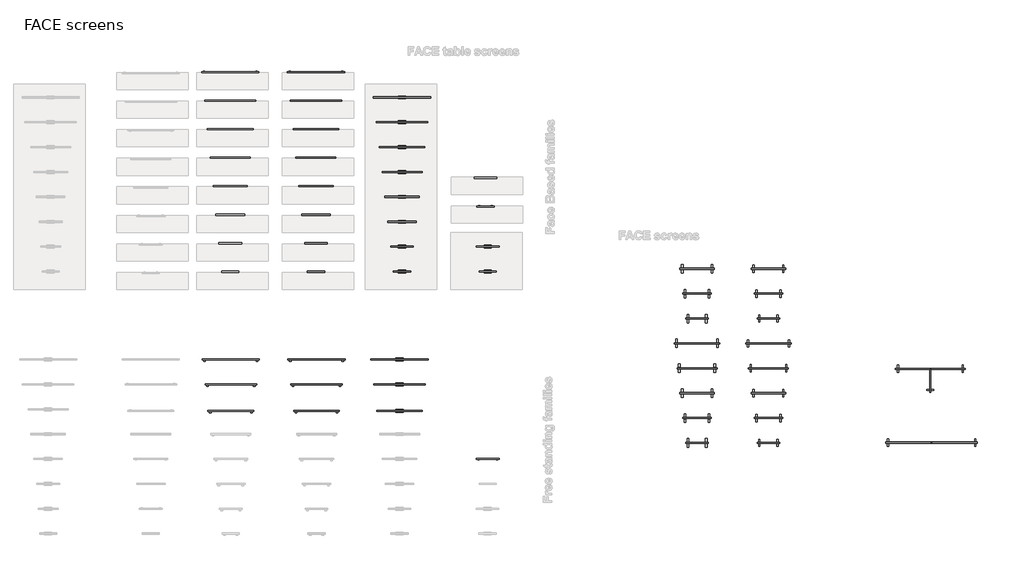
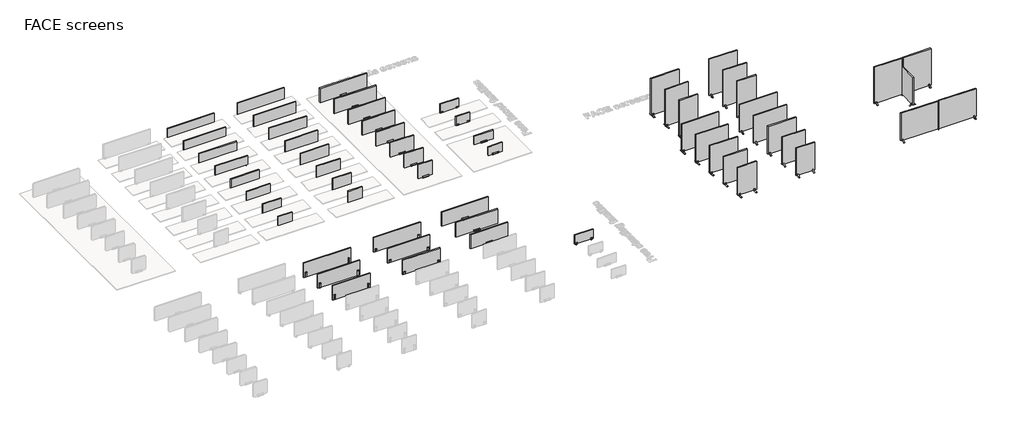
# One storey, part 3 of 5: 59 furniture elements.
"""IFC4 building model written with IfcOpenShell, lengths in millimetres."""

from ifc_helpers import new_model, si_unit, origin, place, context, project, spatial, transform, mapped, element, save
from components import face_screen_713s08_132d1581, face_screen_713s08_463c1df5, face_screen_713s08_e614f201, face_screen_713s10_a4a66952, face_screen_713s10_ce27eabc, face_screen_713s12_4cacd4ec, face_screen_713s12_c93f8a8a, face_screen_713s14_c8a57ed8, face_screen_713s14_17c6f82f, face_screen_713s16_5315decc, face_screen_713s16_555d7e20, face_screen_713s16_f4952262, face_screen_713s16_cd65d1c1, face_screen_717s08_8108ae5a, face_screen_717s08_0329c279, face_screen_717s10_e4c576fd, face_screen_717s10_6311407a, face_screen_717s12_05edb2e0, face_screen_717s12_f170c9c9, face_screen_717s12_934e0f32, face_screen_717s12_8a0433d3, face_table_screen_fb_706s06_1b9d16fb, face_table_screen_fb_706s06_270b821b, face_table_screen_fb_706s08_bac2a356, face_table_screen_fb_706s08_61d8b406, face_table_screen_fb_706s10_108e3ade, face_table_screen_fb_706s10_e50b1dd3, face_table_screen_fb_706s12_b80f97d4, face_table_screen_fb_706s12_b1512c8a, face_table_screen_fb_706s14_fd4735a2, face_table_screen_fb_706s14_3284f1b9, face_table_screen_fb_706s16_7a2e27b4, face_table_screen_fb_706s16_5bb2e9a6, face_table_screen_fb_706s18_1e987e3a, face_table_screen_fb_706s18_e1da7d5a, face_table_screen_fb_706s20_892f0159, face_table_screen_fb_706s20_56650287, face_table_screen_706s16_38ff3cb7, face_table_screen_706s16_7d1a2229, face_table_screen_706s18_22aa0667, face_table_screen_706s18_cf4f79c4, face_table_screen_706s20_c60f38a6, face_table_screen_706s20_2f652c50, face_table_screen_above_the_table_top_fb_704s06y_ef0356d6, face_table_screen_above_the_table_top_fb_704s08y_3d9364f4, face_table_screen_above_the_table_top_704s08y_034038e7, face_free_standing_table_screen_fb_704s06s_1d66ae4d, face_free_standing_table_screen_fb_704s08s_dd9e2d3d, face_free_standing_table_screen_fb_706s06s_526e518a, face_free_standing_table_screen_fb_706s08s_8f1e602d, face_free_standing_table_screen_fb_706s10s_eb0373b6, face_free_standing_table_screen_fb_706s12s_747048ee, face_free_standing_table_screen_fb_706s14s_09d87a36, face_free_standing_table_screen_fb_706s16s_381274a4, face_free_standing_table_screen_fb_706s18s_6387123e, face_free_standing_table_screen_fb_706s20s_1d73bb6a

model = new_model("IFC4")

# Units and contexts
model_context = context("Model", 3, world=origin())
ifc_project = project(units=[si_unit("LENGTHUNIT", "METRE", prefix="MILLI")], contexts=[model_context])

# Site, building, storey
site = spatial("IfcSite", under=ifc_project)
building = spatial("IfcBuilding", under=site)
storey = spatial("IfcBuildingStorey", under=building, Name="FACE screens", Elevation=0.0)

# Furniture
placement = place(None, origin())
face_screen_713s08_shape = face_screen_713s08_132d1581(model_context)
element("IfcFurniture", 1, ObjectType="Face Screen : 713S08", at=placement, inside=storey, context=model_context, shape_type="MappedRepresentation", body=[
    mapped(face_screen_713s08_shape, transform((26613.7291087, 17495.7103603, 0.0), x_axis=(0.0, -1.0000000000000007, 0.0), y_axis=(1.0000000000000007, 0.0, 0.0), z_axis=(0.0, 0.0, 1.0))),
])
face_screen_713s08_2_shape = face_screen_713s08_463c1df5(model_context)
element("IfcFurniture", 2, ObjectType="Face Screen : 713S08", at=placement, inside=storey, context=model_context, shape_type="MappedRepresentation", body=[
    mapped(face_screen_713s08_2_shape, transform((18452.0791385, 15319.7968551, 0.0), x_axis=(1.0000000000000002, 0.0, 0.0), y_axis=(0.0, 1.0000000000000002, 0.0), z_axis=(0.0, 0.0, 1.0))),
])
face_screen_713s08_3_shape = face_screen_713s08_e614f201(model_context)
element("IfcFurniture", 3, ObjectType="Face Screen : 713S08", at=placement, inside=storey, context=model_context, shape_type="MappedRepresentation", body=[
    mapped(face_screen_713s08_3_shape, transform((20952.0791385, 15319.7968551, 0.0), x_axis=(1.0000000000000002, 0.0, 0.0), y_axis=(0.0, 1.0000000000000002, 0.0), z_axis=(0.0, 0.0, 1.0))),
])
face_screen_713s10_shape = face_screen_713s10_a4a66952(model_context)
element("IfcFurniture", 4, ObjectType="Face Screen : 713S10", at=placement, inside=storey, context=model_context, shape_type="MappedRepresentation", body=[
    mapped(face_screen_713s10_shape, transform((18452.0791385, 16191.2254266, 0.0), x_axis=(1.0000000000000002, 0.0, 0.0), y_axis=(0.0, 1.0000000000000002, 0.0), z_axis=(0.0, 0.0, 1.0))),
])
face_screen_713s10_2_shape = face_screen_713s10_ce27eabc(model_context)
element("IfcFurniture", 5, ObjectType="Face Screen : 713S10", at=placement, inside=storey, context=model_context, shape_type="MappedRepresentation", body=[
    mapped(face_screen_713s10_2_shape, transform((20952.0791385, 16191.2254266, 0.0), x_axis=(1.0000000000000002, 0.0, 0.0), y_axis=(0.0, 1.0000000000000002, 0.0), z_axis=(0.0, 0.0, 1.0))),
])
face_screen_713s12_shape = face_screen_713s12_4cacd4ec(model_context)
element("IfcFurniture", 6, ObjectType="Face Screen : 713S12", at=placement, inside=storey, context=model_context, shape_type="MappedRepresentation", body=[
    mapped(face_screen_713s12_shape, transform((18452.0791385, 17062.653998, 0.0), x_axis=(1.0000000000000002, 0.0, 0.0), y_axis=(0.0, 1.0000000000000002, 0.0), z_axis=(0.0, 0.0, 1.0))),
])
face_screen_713s12_2_shape = face_screen_713s12_c93f8a8a(model_context)
element("IfcFurniture", 7, ObjectType="Face Screen : 713S12", at=placement, inside=storey, context=model_context, shape_type="MappedRepresentation", body=[
    mapped(face_screen_713s12_2_shape, transform((20952.0791385, 17062.653998, 0.0), x_axis=(1.0000000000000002, 0.0, 0.0), y_axis=(0.0, 1.0000000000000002, 0.0), z_axis=(0.0, 0.0, 1.0))),
])
face_screen_713s14_shape = face_screen_713s14_c8a57ed8(model_context)
element("IfcFurniture", 8, ObjectType="Face Screen : 713S14", at=placement, inside=storey, context=model_context, shape_type="MappedRepresentation", body=[
    mapped(face_screen_713s14_shape, transform((18452.0791385, 17934.0825694, 0.0), x_axis=(1.0000000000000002, 0.0, 0.0), y_axis=(0.0, 1.0000000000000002, 0.0), z_axis=(0.0, 0.0, 1.0))),
])
face_screen_713s14_2_shape = face_screen_713s14_17c6f82f(model_context)
element("IfcFurniture", 9, ObjectType="Face Screen : 713S14", at=placement, inside=storey, context=model_context, shape_type="MappedRepresentation", body=[
    mapped(face_screen_713s14_2_shape, transform((20952.0791385, 17934.0825694, 0.0), x_axis=(1.0000000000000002, 0.0, 0.0), y_axis=(0.0, 1.0000000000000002, 0.0), z_axis=(0.0, 0.0, 1.0))),
])
face_screen_713s16_shape = face_screen_713s16_5315decc(model_context)
element("IfcFurniture", 10, ObjectType="Face Screen : 713S16", at=placement, inside=storey, context=model_context, shape_type="MappedRepresentation", body=[
    mapped(face_screen_713s16_shape, transform((25853.7291087, 15328.716789, 0.0), x_axis=(1.0000000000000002, 0.0, 0.0), y_axis=(0.0, 1.0000000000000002, 0.0), z_axis=(0.0, 0.0, 1.0))),
])
face_screen_713s16_2_shape = face_screen_713s16_555d7e20(model_context)
element("IfcFurniture", 11, ObjectType="Face Screen : 713S16", at=placement, inside=storey, context=model_context, shape_type="MappedRepresentation", body=[
    mapped(face_screen_713s16_2_shape, transform((27468.7291087, 15328.716789, 0.0), x_axis=(1.0000000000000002, 0.0, 0.0), y_axis=(0.0, 1.0000000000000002, 0.0), z_axis=(0.0, 0.0, 1.0))),
])
face_screen_713s16_3_shape = face_screen_713s16_f4952262(model_context)
element("IfcFurniture", 12, ObjectType="Face Screen : 713S16", at=placement, inside=storey, context=model_context, shape_type="MappedRepresentation", body=[
    mapped(face_screen_713s16_3_shape, transform((18452.0791385, 18805.5111409, 0.0), x_axis=(1.0000000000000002, 0.0, 0.0), y_axis=(0.0, 1.0000000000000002, 0.0), z_axis=(0.0, 0.0, 1.0))),
])
face_screen_713s16_4_shape = face_screen_713s16_cd65d1c1(model_context)
element("IfcFurniture", 13, ObjectType="Face Screen : 713S16", at=placement, inside=storey, context=model_context, shape_type="MappedRepresentation", body=[
    mapped(face_screen_713s16_4_shape, transform((20952.0791385, 18805.5111409, 0.0), x_axis=(1.0000000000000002, 0.0, 0.0), y_axis=(0.0, 1.0000000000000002, 0.0), z_axis=(0.0, 0.0, 1.0))),
])
face_screen_717s08_shape = face_screen_717s08_8108ae5a(model_context)
element("IfcFurniture", 14, ObjectType="Face Screen : 717S08", at=placement, inside=storey, context=model_context, shape_type="MappedRepresentation", body=[
    mapped(face_screen_717s08_shape, transform((18452.0791385, 19676.9397123, 0.0), x_axis=(1.0000000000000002, 0.0, 0.0), y_axis=(0.0, 1.0000000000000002, 0.0), z_axis=(0.0, 0.0, 1.0))),
])
face_screen_717s08_2_shape = face_screen_717s08_0329c279(model_context)
element("IfcFurniture", 15, ObjectType="Face Screen : 717S08", at=placement, inside=storey, context=model_context, shape_type="MappedRepresentation", body=[
    mapped(face_screen_717s08_2_shape, transform((20952.0791385, 19676.9397123, 0.0), x_axis=(1.0000000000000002, 0.0, 0.0), y_axis=(0.0, 1.0000000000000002, 0.0), z_axis=(0.0, 0.0, 1.0))),
])
face_screen_717s10_shape = face_screen_717s10_e4c576fd(model_context)
element("IfcFurniture", 16, ObjectType="Face Screen : 717S10", at=placement, inside=storey, context=model_context, shape_type="MappedRepresentation", body=[
    mapped(face_screen_717s10_shape, transform((18452.0791385, 20548.3682837, 0.0), x_axis=(1.0000000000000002, 0.0, 0.0), y_axis=(0.0, 1.0000000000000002, 0.0), z_axis=(0.0, 0.0, 1.0))),
])
face_screen_717s10_2_shape = face_screen_717s10_6311407a(model_context)
element("IfcFurniture", 17, ObjectType="Face Screen : 717S10", at=placement, inside=storey, context=model_context, shape_type="MappedRepresentation", body=[
    mapped(face_screen_717s10_2_shape, transform((20952.0791385, 20548.3682837, 0.0), x_axis=(1.0000000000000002, 0.0, 0.0), y_axis=(0.0, 1.0000000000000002, 0.0), z_axis=(0.0, 0.0, 1.0))),
])
face_screen_717s12_shape = face_screen_717s12_05edb2e0(model_context)
element("IfcFurniture", 18, ObjectType="Face Screen : 717S12", at=placement, inside=storey, context=model_context, shape_type="MappedRepresentation", body=[
    mapped(face_screen_717s12_shape, transform((25993.7291087, 17915.7103603, 0.0), x_axis=(1.0000000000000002, 0.0, 0.0), y_axis=(0.0, 1.0000000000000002, 0.0), z_axis=(0.0, 0.0, 1.0))),
])
face_screen_717s12_2_shape = face_screen_717s12_f170c9c9(model_context)
element("IfcFurniture", 19, ObjectType="Face Screen : 717S12", at=placement, inside=storey, context=model_context, shape_type="MappedRepresentation", body=[
    mapped(face_screen_717s12_2_shape, transform((27233.7291087, 17915.7103603, 0.0), x_axis=(1.0000000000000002, 0.0, 0.0), y_axis=(0.0, 1.0000000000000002, 0.0), z_axis=(0.0, 0.0, 1.0))),
])
face_screen_717s12_3_shape = face_screen_717s12_934e0f32(model_context)
element("IfcFurniture", 20, ObjectType="Face Screen : 717S12", at=placement, inside=storey, context=model_context, shape_type="MappedRepresentation", body=[
    mapped(face_screen_717s12_3_shape, transform((18452.0791385, 21419.7968551, 0.0), x_axis=(1.0000000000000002, 0.0, 0.0), y_axis=(0.0, 1.0000000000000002, 0.0), z_axis=(0.0, 0.0, 1.0))),
])
face_screen_717s12_4_shape = face_screen_717s12_8a0433d3(model_context)
element("IfcFurniture", 21, ObjectType="Face Screen : 717S12", at=placement, inside=storey, context=model_context, shape_type="MappedRepresentation", body=[
    mapped(face_screen_717s12_4_shape, transform((20952.0791385, 21419.7968551, 0.0), x_axis=(1.0000000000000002, 0.0, 0.0), y_axis=(0.0, 1.0000000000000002, 0.0), z_axis=(0.0, 0.0, 1.0))),
])
face_table_screen_fb_706s06_shape = face_table_screen_fb_706s06_1b9d16fb(model_context)
element("IfcFurniture", 22, ObjectType="Face Table Screen - FB : 706S06", at=placement, inside=storey, context=model_context, shape_type="MappedRepresentation", body=[
    mapped(face_table_screen_fb_706s06_shape, transform((5134.1822086, 21292.7717693, 720.0), x_axis=(-1.0, 0.0, 0.0), y_axis=(0.0, -1.0, 0.0), z_axis=(0.0, 0.0, 1.0))),
])
face_table_screen_fb_706s06_2_shape = face_table_screen_fb_706s06_270b821b(model_context)
element("IfcFurniture", 23, ObjectType="Face Table Screen - FB : 706S06", at=placement, inside=storey, context=model_context, shape_type="MappedRepresentation", body=[
    mapped(face_table_screen_fb_706s06_2_shape, transform((2134.1822086, 21292.7717693, 720.0), x_axis=(-1.0, 0.0, 0.0), y_axis=(0.0, -1.0, 0.0), z_axis=(0.0, 0.0, 1.0))),
])
face_table_screen_fb_706s08_shape = face_table_screen_fb_706s08_bac2a356(model_context)
element("IfcFurniture", 24, ObjectType="Face Table Screen - FB : 706S08", at=placement, inside=storey, context=model_context, shape_type="MappedRepresentation", body=[
    mapped(face_table_screen_fb_706s08_shape, transform((5134.1822086, 22292.7717693, 720.0), x_axis=(-1.0, 0.0, 0.0), y_axis=(0.0, -1.0, 0.0), z_axis=(0.0, 0.0, 1.0))),
])
face_table_screen_fb_706s08_2_shape = face_table_screen_fb_706s08_61d8b406(model_context)
element("IfcFurniture", 25, ObjectType="Face Table Screen - FB : 706S08", at=placement, inside=storey, context=model_context, shape_type="MappedRepresentation", body=[
    mapped(face_table_screen_fb_706s08_2_shape, transform((2134.1822086, 22292.7717693, 720.0), x_axis=(-1.0, 0.0, 0.0), y_axis=(0.0, -1.0, 0.0), z_axis=(0.0, 0.0, 1.0))),
])
face_table_screen_fb_706s10_shape = face_table_screen_fb_706s10_108e3ade(model_context)
element("IfcFurniture", 26, ObjectType="Face Table Screen - FB : 706S10", at=placement, inside=storey, context=model_context, shape_type="MappedRepresentation", body=[
    mapped(face_table_screen_fb_706s10_shape, transform((5134.1822086, 23292.7717693, 720.0), x_axis=(-1.0, 0.0, 0.0), y_axis=(0.0, -1.0, 0.0), z_axis=(0.0, 0.0, 1.0))),
])
face_table_screen_fb_706s10_2_shape = face_table_screen_fb_706s10_e50b1dd3(model_context)
element("IfcFurniture", 27, ObjectType="Face Table Screen - FB : 706S10", at=placement, inside=storey, context=model_context, shape_type="MappedRepresentation", body=[
    mapped(face_table_screen_fb_706s10_2_shape, transform((2134.1822086, 23292.7717693, 720.0), x_axis=(-1.0, 0.0, 0.0), y_axis=(0.0, -1.0, 0.0), z_axis=(0.0, 0.0, 1.0))),
])
face_table_screen_fb_706s12_shape = face_table_screen_fb_706s12_b80f97d4(model_context)
element("IfcFurniture", 28, ObjectType="Face Table Screen - FB : 706S12", at=placement, inside=storey, context=model_context, shape_type="MappedRepresentation", body=[
    mapped(face_table_screen_fb_706s12_shape, transform((5134.1822086, 24292.7717693, 720.0), x_axis=(-1.0, 0.0, 0.0), y_axis=(0.0, -1.0, 0.0), z_axis=(0.0, 0.0, 1.0))),
])
face_table_screen_fb_706s12_2_shape = face_table_screen_fb_706s12_b1512c8a(model_context)
element("IfcFurniture", 29, ObjectType="Face Table Screen - FB : 706S12", at=placement, inside=storey, context=model_context, shape_type="MappedRepresentation", body=[
    mapped(face_table_screen_fb_706s12_2_shape, transform((2134.1822086, 24292.7717693, 720.0), x_axis=(-1.0, 0.0, 0.0), y_axis=(0.0, -1.0, 0.0), z_axis=(0.0, 0.0, 1.0))),
])
face_table_screen_fb_706s14_shape = face_table_screen_fb_706s14_fd4735a2(model_context)
element("IfcFurniture", 30, ObjectType="Face Table Screen - FB : 706S14", at=placement, inside=storey, context=model_context, shape_type="MappedRepresentation", body=[
    mapped(face_table_screen_fb_706s14_shape, transform((5134.1822086, 25292.7717693, 720.0), x_axis=(-1.0, 0.0, 0.0), y_axis=(0.0, -1.0, 0.0), z_axis=(0.0, 0.0, 1.0))),
])
face_table_screen_fb_706s14_2_shape = face_table_screen_fb_706s14_3284f1b9(model_context)
element("IfcFurniture", 31, ObjectType="Face Table Screen - FB : 706S14", at=placement, inside=storey, context=model_context, shape_type="MappedRepresentation", body=[
    mapped(face_table_screen_fb_706s14_2_shape, transform((2134.1822086, 25292.7717693, 720.0), x_axis=(-1.0, 0.0, 0.0), y_axis=(0.0, -1.0, 0.0), z_axis=(0.0, 0.0, 1.0))),
])
face_table_screen_fb_706s16_shape = face_table_screen_fb_706s16_7a2e27b4(model_context)
element("IfcFurniture", 32, ObjectType="Face Table Screen - FB : 706S16", at=placement, inside=storey, context=model_context, shape_type="MappedRepresentation", body=[
    mapped(face_table_screen_fb_706s16_shape, transform((5134.1822086, 26292.7717693, 720.0), x_axis=(-1.0, 0.0, 0.0), y_axis=(0.0, -1.0, 0.0), z_axis=(0.0, 0.0, 1.0))),
])
face_table_screen_fb_706s16_2_shape = face_table_screen_fb_706s16_5bb2e9a6(model_context)
element("IfcFurniture", 33, ObjectType="Face Table Screen - FB : 706S16", at=placement, inside=storey, context=model_context, shape_type="MappedRepresentation", body=[
    mapped(face_table_screen_fb_706s16_2_shape, transform((2134.1822086, 26292.7717693, 720.0), x_axis=(-1.0, 0.0, 0.0), y_axis=(0.0, -1.0, 0.0), z_axis=(0.0, 0.0, 1.0))),
])
face_table_screen_fb_706s18_shape = face_table_screen_fb_706s18_1e987e3a(model_context)
element("IfcFurniture", 34, ObjectType="Face Table Screen - FB : 706S18", at=placement, inside=storey, context=model_context, shape_type="MappedRepresentation", body=[
    mapped(face_table_screen_fb_706s18_shape, transform((5134.1822086, 27292.7717693, 720.0), x_axis=(-1.0, 0.0, 0.0), y_axis=(0.0, -1.0, 0.0), z_axis=(0.0, 0.0, 1.0))),
])
face_table_screen_fb_706s18_2_shape = face_table_screen_fb_706s18_e1da7d5a(model_context)
element("IfcFurniture", 35, ObjectType="Face Table Screen - FB : 706S18", at=placement, inside=storey, context=model_context, shape_type="MappedRepresentation", body=[
    mapped(face_table_screen_fb_706s18_2_shape, transform((2134.1822086, 27292.7717693, 720.0), x_axis=(-1.0, 0.0, 0.0), y_axis=(0.0, -1.0, 0.0), z_axis=(0.0, 0.0, 1.0))),
])
face_table_screen_fb_706s20_shape = face_table_screen_fb_706s20_892f0159(model_context)
element("IfcFurniture", 36, ObjectType="Face Table Screen - FB : 706S20", at=placement, inside=storey, context=model_context, shape_type="MappedRepresentation", body=[
    mapped(face_table_screen_fb_706s20_shape, transform((5134.1822086, 28292.7717693, 720.0), x_axis=(-1.0, 0.0, 0.0), y_axis=(0.0, -1.0, 0.0), z_axis=(0.0, 0.0, 1.0))),
])
face_table_screen_fb_706s20_2_shape = face_table_screen_fb_706s20_56650287(model_context)
element("IfcFurniture", 37, ObjectType="Face Table Screen - FB : 706S20", at=placement, inside=storey, context=model_context, shape_type="MappedRepresentation", body=[
    mapped(face_table_screen_fb_706s20_2_shape, transform((2134.1822086, 28292.7717693, 720.0), x_axis=(-1.0, 0.0, 0.0), y_axis=(0.0, -1.0, 0.0), z_axis=(0.0, 0.0, 1.0))),
])
face_table_screen_706s16_shape = face_table_screen_706s16_38ff3cb7(model_context)
element("IfcFurniture", 38, ObjectType="Face Table Screen : 706S16", at=placement, inside=storey, context=model_context, shape_type="MappedRepresentation", body=[
    mapped(face_table_screen_706s16_shape, transform((5134.1822086, 16442.2927634, 720.0), x_axis=(-1.0, 0.0, 0.0), y_axis=(0.0, -1.0, 0.0), z_axis=(0.0, 0.0, 1.0))),
])
face_table_screen_706s16_2_shape = face_table_screen_706s16_7d1a2229(model_context)
element("IfcFurniture", 39, ObjectType="Face Table Screen : 706S16", at=placement, inside=storey, context=model_context, shape_type="MappedRepresentation", body=[
    mapped(face_table_screen_706s16_2_shape, transform((2134.1822086, 16442.2927634, 720.0), x_axis=(-1.0, 0.0, 0.0), y_axis=(0.0, -1.0, 0.0), z_axis=(0.0, 0.0, 1.0))),
])
face_table_screen_706s18_shape = face_table_screen_706s18_22aa0667(model_context)
element("IfcFurniture", 40, ObjectType="Face Table Screen : 706S18", at=placement, inside=storey, context=model_context, shape_type="MappedRepresentation", body=[
    mapped(face_table_screen_706s18_shape, transform((5134.1822086, 17370.864192, 720.0), x_axis=(-1.0, 0.0, 0.0), y_axis=(0.0, -1.0, 0.0), z_axis=(0.0, 0.0, 1.0))),
])
face_table_screen_706s18_2_shape = face_table_screen_706s18_cf4f79c4(model_context)
element("IfcFurniture", 41, ObjectType="Face Table Screen : 706S18", at=placement, inside=storey, context=model_context, shape_type="MappedRepresentation", body=[
    mapped(face_table_screen_706s18_2_shape, transform((2134.1822086, 17370.864192, 720.0), x_axis=(-1.0, 0.0, 0.0), y_axis=(0.0, -1.0, 0.0), z_axis=(0.0, 0.0, 1.0))),
])
face_table_screen_706s20_shape = face_table_screen_706s20_c60f38a6(model_context)
element("IfcFurniture", 42, ObjectType="Face Table Screen : 706S20", at=placement, inside=storey, context=model_context, shape_type="MappedRepresentation", body=[
    mapped(face_table_screen_706s20_shape, transform((5134.1822086, 18242.2927634, 720.0), x_axis=(-1.0, 0.0, 0.0), y_axis=(0.0, -1.0, 0.0), z_axis=(0.0, 0.0, 1.0))),
])
face_table_screen_706s20_2_shape = face_table_screen_706s20_2f652c50(model_context)
element("IfcFurniture", 43, ObjectType="Face Table Screen : 706S20", at=placement, inside=storey, context=model_context, shape_type="MappedRepresentation", body=[
    mapped(face_table_screen_706s20_2_shape, transform((2134.1822086, 18242.2927634, 720.0), x_axis=(-1.0, 0.0, 0.0), y_axis=(0.0, -1.0, 0.0), z_axis=(0.0, 0.0, 1.0))),
])
face_table_screen_above_the_table_top_fb_704s06y_shape = face_table_screen_above_the_table_top_fb_704s06y_ef0356d6(model_context)
element("IfcFurniture", 44, ObjectType="Face Table Screen above the Table Top - FB : 704S06Y", at=placement, inside=storey, context=model_context, shape_type="MappedRepresentation", body=[
    mapped(face_table_screen_above_the_table_top_fb_704s06y_shape, transform((11050.7384834, 23623.6452984, 720.0), x_axis=(-1.0, 0.0, 0.0), y_axis=(0.0, -1.0, 0.0), z_axis=(0.0, 0.0, 1.0))),
])
face_table_screen_above_the_table_top_fb_704s08y_shape = face_table_screen_above_the_table_top_fb_704s08y_3d9364f4(model_context)
element("IfcFurniture", 45, ObjectType="Face Table Screen above the Table Top - FB : 704S08Y", at=placement, inside=storey, context=model_context, shape_type="MappedRepresentation", body=[
    mapped(face_table_screen_above_the_table_top_fb_704s08y_shape, transform((11050.7384834, 24623.6452984, 720.0), x_axis=(-1.0, 0.0, 0.0), y_axis=(0.0, -1.0, 0.0), z_axis=(0.0, 0.0, 1.0))),
])
face_table_screen_above_the_table_top_704s08y_shape = face_table_screen_above_the_table_top_704s08y_034038e7(model_context)
element("IfcFurniture", 46, ObjectType="Face Table Screen above the Table Top : 704S08Y", at=placement, inside=storey, context=model_context, shape_type="MappedRepresentation", body=[
    mapped(face_table_screen_above_the_table_top_704s08y_shape, transform((11126.7863427, 14756.5784777, 720.0), x_axis=(-1.0, 0.0, 0.0), y_axis=(0.0, -1.0, 0.0), z_axis=(0.0, 0.0, 1.0))),
])
face_free_standing_table_screen_fb_704s06s_shape = face_free_standing_table_screen_fb_704s06s_1d66ae4d(model_context)
element("IfcFurniture", 47, ObjectType="Face free-standing Table Screen - FB : 704S06S", at=placement, inside=storey, context=model_context, shape_type="MappedRepresentation", body=[
    mapped(face_free_standing_table_screen_fb_704s06s_shape, transform((11126.7863427, 21324.2371842, 720.0), x_axis=(-1.0, 0.0, 0.0), y_axis=(0.0, -1.0, 0.0), z_axis=(0.0, 0.0, 1.0))),
])
face_free_standing_table_screen_fb_704s08s_shape = face_free_standing_table_screen_fb_704s08s_dd9e2d3d(model_context)
element("IfcFurniture", 48, ObjectType="Face free-standing Table Screen - FB : 704S08S", at=placement, inside=storey, context=model_context, shape_type="MappedRepresentation", body=[
    mapped(face_free_standing_table_screen_fb_704s08s_shape, transform((11126.7863427, 22195.6657556, 720.0), x_axis=(-1.0, 0.0, 0.0), y_axis=(0.0, -1.0, 0.0), z_axis=(0.0, 0.0, 1.0))),
])
face_free_standing_table_screen_fb_706s06s_shape = face_free_standing_table_screen_fb_706s06s_526e518a(model_context)
element("IfcFurniture", 49, ObjectType="Face free-standing Table Screen - FB : 706S06S", at=placement, inside=storey, context=model_context, shape_type="MappedRepresentation", body=[
    mapped(face_free_standing_table_screen_fb_706s06s_shape, transform((8126.7863427, 21324.2371842, 720.0), x_axis=(-1.0, 0.0, 0.0), y_axis=(0.0, -1.0, 0.0), z_axis=(0.0, 0.0, 1.0))),
])
face_free_standing_table_screen_fb_706s08s_shape = face_free_standing_table_screen_fb_706s08s_8f1e602d(model_context)
element("IfcFurniture", 50, ObjectType="Face free-standing Table Screen - FB : 706S08S", at=placement, inside=storey, context=model_context, shape_type="MappedRepresentation", body=[
    mapped(face_free_standing_table_screen_fb_706s08s_shape, transform((8126.7863427, 22195.6657556, 720.0), x_axis=(-1.0, 0.0, 0.0), y_axis=(0.0, -1.0, 0.0), z_axis=(0.0, 0.0, 1.0))),
])
face_free_standing_table_screen_fb_706s10s_shape = face_free_standing_table_screen_fb_706s10s_eb0373b6(model_context)
element("IfcFurniture", 51, ObjectType="Face free-standing Table Screen - FB : 706S10S", at=placement, inside=storey, context=model_context, shape_type="MappedRepresentation", body=[
    mapped(face_free_standing_table_screen_fb_706s10s_shape, transform((8126.7863427, 23067.094327, 720.0), x_axis=(-1.0, 0.0, 0.0), y_axis=(0.0, -1.0, 0.0), z_axis=(0.0, 0.0, 1.0))),
])
face_free_standing_table_screen_fb_706s12s_shape = face_free_standing_table_screen_fb_706s12s_747048ee(model_context)
element("IfcFurniture", 52, ObjectType="Face free-standing Table Screen - FB : 706S12S", at=placement, inside=storey, context=model_context, shape_type="MappedRepresentation", body=[
    mapped(face_free_standing_table_screen_fb_706s12s_shape, transform((8126.7863427, 23938.5228984, 720.0), x_axis=(-1.0, 0.0, 0.0), y_axis=(0.0, -1.0, 0.0), z_axis=(0.0, 0.0, 1.0))),
])
face_free_standing_table_screen_fb_706s14s_shape = face_free_standing_table_screen_fb_706s14s_09d87a36(model_context)
element("IfcFurniture", 53, ObjectType="Face free-standing Table Screen - FB : 706S14S", at=placement, inside=storey, context=model_context, shape_type="MappedRepresentation", body=[
    mapped(face_free_standing_table_screen_fb_706s14s_shape, transform((8126.7863427, 24809.9514699, 720.0), x_axis=(-1.0, 0.0, 0.0), y_axis=(0.0, -1.0, 0.0), z_axis=(0.0, 0.0, 1.0))),
])
face_free_standing_table_screen_fb_706s16s_shape = face_free_standing_table_screen_fb_706s16s_381274a4(model_context)
element("IfcFurniture", 54, ObjectType="Face free-standing Table Screen - FB : 706S16S", at=placement, inside=storey, context=model_context, shape_type="MappedRepresentation", body=[
    mapped(face_free_standing_table_screen_fb_706s16s_shape, transform((8126.7863427, 25681.3800413, 720.0), x_axis=(-1.0, 0.0, 0.0), y_axis=(0.0, -1.0, 0.0), z_axis=(0.0, 0.0, 1.0))),
])
face_free_standing_table_screen_fb_706s18s_shape = face_free_standing_table_screen_fb_706s18s_6387123e(model_context)
element("IfcFurniture", 55, ObjectType="Face free-standing Table Screen - FB : 706S18S", at=placement, inside=storey, context=model_context, shape_type="MappedRepresentation", body=[
    mapped(face_free_standing_table_screen_fb_706s18s_shape, transform((8126.7863427, 26552.8086127, 720.0), x_axis=(-1.0, 0.0, 0.0), y_axis=(0.0, -1.0, 0.0), z_axis=(0.0, 0.0, 1.0))),
])
face_free_standing_table_screen_fb_706s20s_shape = face_free_standing_table_screen_fb_706s20s_1d73bb6a(model_context)
element("IfcFurniture", 56, ObjectType="Face free-standing Table Screen - FB : 706S20S", at=placement, inside=storey, context=model_context, shape_type="MappedRepresentation", body=[
    mapped(face_free_standing_table_screen_fb_706s20s_shape, transform((8126.7863427, 27424.2371842, 720.0), x_axis=(-1.0, 0.0, 0.0), y_axis=(0.0, -1.0, 0.0), z_axis=(0.0, 0.0, 1.0))),
])
element("IfcFurniture", 57, ObjectType="Face free-standing Table Screen : 706S16S", at=placement, inside=storey, context=model_context, shape_type="MappedRepresentation", body=[
    mapped(face_free_standing_table_screen_fb_706s16s_shape, transform((8039.0797158, 16442.2927634, 720.0), x_axis=(-1.0, 0.0, 0.0), y_axis=(0.0, -1.0, 0.0), z_axis=(0.0, 0.0, 1.0))),
])
element("IfcFurniture", 58, ObjectType="Face free-standing Table Screen : 706S18S", at=placement, inside=storey, context=model_context, shape_type="MappedRepresentation", body=[
    mapped(face_free_standing_table_screen_fb_706s18s_shape, transform((8039.0797158, 17370.864192, 720.0), x_axis=(-1.0, 0.0, 0.0), y_axis=(0.0, -1.0, 0.0), z_axis=(0.0, 0.0, 1.0))),
])
element("IfcFurniture", 59, ObjectType="Face free-standing Table Screen : 706S20S", at=placement, inside=storey, context=model_context, shape_type="MappedRepresentation", body=[
    mapped(face_free_standing_table_screen_fb_706s20s_shape, transform((8039.0797158, 18242.2927634, 720.0), x_axis=(-1.0, 0.0, 0.0), y_axis=(0.0, -1.0, 0.0), z_axis=(0.0, 0.0, 1.0))),
])

save(model, "model.ifc")
